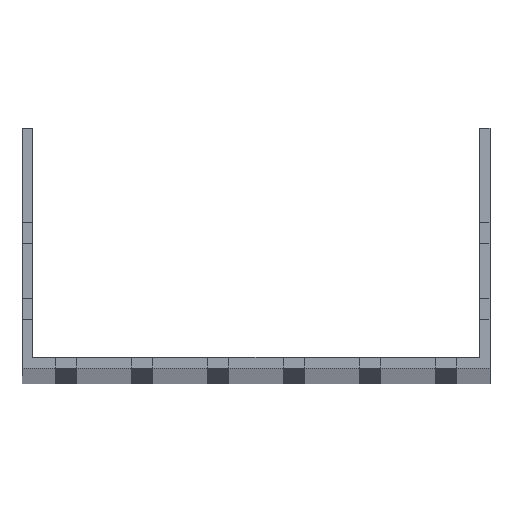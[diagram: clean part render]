
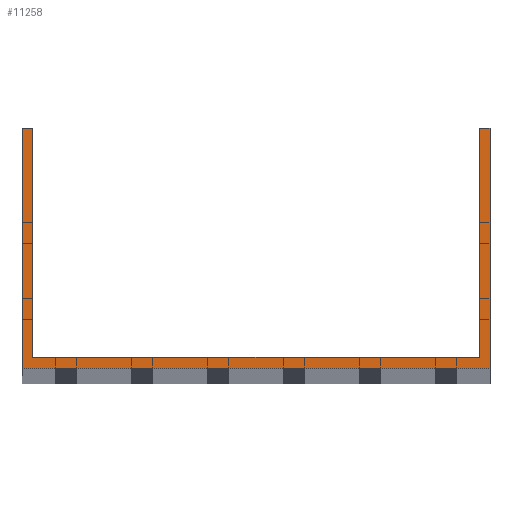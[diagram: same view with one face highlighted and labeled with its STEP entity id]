
A CAD part, top view. The second image highlights one B-rep face of the part: STEP entity #11258.
In plain terms, the highlighted planar face has unit normal (0, 0, 1).
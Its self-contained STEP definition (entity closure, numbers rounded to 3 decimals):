
#354 = CARTESIAN_POINT ( 'NONE',  ( -73.5, 79., 1500. ) ) ;
#1533 = ORIENTED_EDGE ( 'NONE', *, *, #30879, .F. ) ;
#2896 = LINE ( 'NONE', #63925, #25885 ) ;
#3526 = CARTESIAN_POINT ( 'NONE',  ( -73.5, 79., 1500. ) ) ;
#3798 = LINE ( 'NONE', #56384, #68724 ) ;
#4457 = CARTESIAN_POINT ( 'NONE',  ( 73.5, 79., 1500. ) ) ;
#4460 = EDGE_CURVE ( 'NONE', #51194, #41310, #3798, .T. ) ;
#6526 = CARTESIAN_POINT ( 'NONE',  ( -77., 0., 1500. ) ) ;
#9530 = CARTESIAN_POINT ( 'NONE',  ( 77., 79., 1500. ) ) ;
#10791 = PLANE ( 'NONE',  #18870 ) ;
#11258 = ADVANCED_FACE ( 'NONE', ( #78772 ), #10791, .T. ) ;
#11498 = CARTESIAN_POINT ( 'NONE',  ( 77., 79., 1500. ) ) ;
#11901 = DIRECTION ( 'NONE',  ( 0., 1., 0. ) ) ;
#12186 = VERTEX_POINT ( 'NONE', #6526 ) ;
#13056 = ORIENTED_EDGE ( 'NONE', *, *, #60019, .F. ) ;
#15510 = LINE ( 'NONE', #9530, #83000 ) ;
#16349 = CARTESIAN_POINT ( 'NONE',  ( -77., 0., 1500. ) ) ;
#18870 = AXIS2_PLACEMENT_3D ( 'NONE', #26654, #26173, #56440 ) ;
#19026 = EDGE_LOOP ( 'NONE', ( #27356, #95066, #32052, #25155, #62026, #22564, #13056, #1533 ) ) ;
#20990 = CARTESIAN_POINT ( 'NONE',  ( -73.5, 3.5, 1500. ) ) ;
#22564 = ORIENTED_EDGE ( 'NONE', *, *, #58847, .T. ) ;
#25127 = DIRECTION ( 'NONE',  ( -1., 0., 0. ) ) ;
#25155 = ORIENTED_EDGE ( 'NONE', *, *, #85465, .T. ) ;
#25885 = VECTOR ( 'NONE', #26687, 1000. ) ;
#26173 = DIRECTION ( 'NONE',  ( 0., 0., 1. ) ) ;
#26654 = CARTESIAN_POINT ( 'NONE',  ( 0., 0., 1500. ) ) ;
#26687 = DIRECTION ( 'NONE',  ( 1., 0., 0. ) ) ;
#27356 = ORIENTED_EDGE ( 'NONE', *, *, #33533, .F. ) ;
#30606 = DIRECTION ( 'NONE',  ( 0., -1., 0. ) ) ;
#30879 = EDGE_CURVE ( 'NONE', #35945, #91760, #2896, .T. ) ;
#32052 = ORIENTED_EDGE ( 'NONE', *, *, #75250, .T. ) ;
#33533 = EDGE_CURVE ( 'NONE', #51194, #35945, #68321, .T. ) ;
#33793 = CARTESIAN_POINT ( 'NONE',  ( 73.5, 79., 1500. ) ) ;
#35945 = VERTEX_POINT ( 'NONE', #20990 ) ;
#36567 = CARTESIAN_POINT ( 'NONE',  ( -77., 79., 1500. ) ) ;
#38475 = VERTEX_POINT ( 'NONE', #83619 ) ;
#41310 = VERTEX_POINT ( 'NONE', #36567 ) ;
#41728 = DIRECTION ( 'NONE',  ( 0., -1., 0. ) ) ;
#44074 = DIRECTION ( 'NONE',  ( -1., 0., 0. ) ) ;
#45073 = LINE ( 'NONE', #81799, #84246 ) ;
#46579 = CARTESIAN_POINT ( 'NONE',  ( 73.5, 3.5, 1500. ) ) ;
#47378 = EDGE_CURVE ( 'NONE', #38475, #78658, #15510, .T. ) ;
#50086 = LINE ( 'NONE', #4457, #90839 ) ;
#51194 = VERTEX_POINT ( 'NONE', #3526 ) ;
#56384 = CARTESIAN_POINT ( 'NONE',  ( -77., 79., 1500. ) ) ;
#56440 = DIRECTION ( 'NONE',  ( 1., 0., 0. ) ) ;
#58847 = EDGE_CURVE ( 'NONE', #78658, #65670, #45073, .T. ) ;
#60019 = EDGE_CURVE ( 'NONE', #91760, #65670, #50086, .T. ) ;
#62026 = ORIENTED_EDGE ( 'NONE', *, *, #47378, .T. ) ;
#63925 = CARTESIAN_POINT ( 'NONE',  ( -77., 3.5, 1500. ) ) ;
#64081 = LINE ( 'NONE', #95330, #70628 ) ;
#65670 = VERTEX_POINT ( 'NONE', #33793 ) ;
#68321 = LINE ( 'NONE', #354, #94313 ) ;
#68724 = VECTOR ( 'NONE', #25127, 1000. ) ;
#70628 = VECTOR ( 'NONE', #41728, 1000. ) ;
#73952 = LINE ( 'NONE', #16349, #87562 ) ;
#75250 = EDGE_CURVE ( 'NONE', #41310, #12186, #64081, .T. ) ;
#78658 = VERTEX_POINT ( 'NONE', #11498 ) ;
#78772 = FACE_OUTER_BOUND ( 'NONE', #19026, .T. ) ;
#81799 = CARTESIAN_POINT ( 'NONE',  ( -77., 79., 1500. ) ) ;
#83000 = VECTOR ( 'NONE', #90937, 1000. ) ;
#83619 = CARTESIAN_POINT ( 'NONE',  ( 77., 0., 1500. ) ) ;
#84246 = VECTOR ( 'NONE', #44074, 1000. ) ;
#84325 = DIRECTION ( 'NONE',  ( 1., 0., 0. ) ) ;
#85465 = EDGE_CURVE ( 'NONE', #12186, #38475, #73952, .T. ) ;
#87562 = VECTOR ( 'NONE', #84325, 1000. ) ;
#90839 = VECTOR ( 'NONE', #11901, 1000. ) ;
#90937 = DIRECTION ( 'NONE',  ( 0., 1., 0. ) ) ;
#91760 = VERTEX_POINT ( 'NONE', #46579 ) ;
#94313 = VECTOR ( 'NONE', #30606, 1000. ) ;
#95066 = ORIENTED_EDGE ( 'NONE', *, *, #4460, .T. ) ;
#95330 = CARTESIAN_POINT ( 'NONE',  ( -77., 79., 1500. ) ) ;
